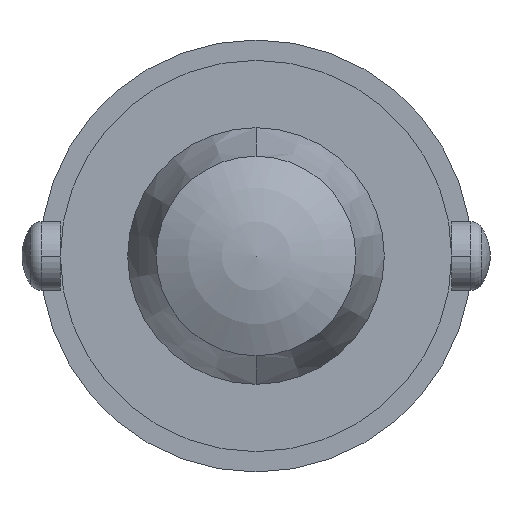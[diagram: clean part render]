
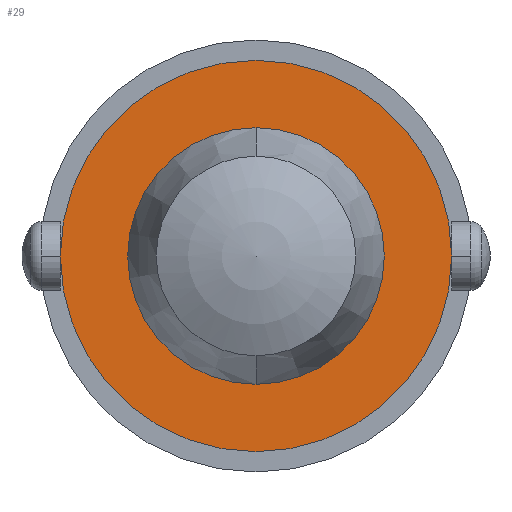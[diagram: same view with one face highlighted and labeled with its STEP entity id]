
A CAD part, front view. The second image highlights one B-rep face of the part: STEP entity #29.
In plain terms, the highlighted planar face has unit normal (0, -1, 0).
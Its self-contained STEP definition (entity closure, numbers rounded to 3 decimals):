
#29 = ADVANCED_FACE ( 'NONE', ( #313, #328 ), #244, .T. ) ;
#131 = CIRCLE ( 'NONE', #629, 3. ) ;
#132 = CIRCLE ( 'NONE', #631, 3. ) ;
#139 = CIRCLE ( 'NONE', #642, 4.575 ) ;
#146 = AXIS2_PLACEMENT_3D ( 'NONE', #254, #236, #221 ) ;
#197 = CIRCLE ( 'NONE', #660, 4.575 ) ;
#199 = EDGE_CURVE ( 'NONE', #619, #411, #197, .T. ) ;
#221 = DIRECTION ( 'NONE',  ( 0., 0., -1. ) ) ;
#236 = DIRECTION ( 'NONE',  ( 0., -1., 0. ) ) ;
#244 = PLANE ( 'NONE',  #146 ) ;
#254 = CARTESIAN_POINT ( 'NONE',  ( 0., -19.9, 0. ) ) ;
#259 = EDGE_CURVE ( 'NONE', #411, #619, #139, .T. ) ;
#261 = CARTESIAN_POINT ( 'NONE',  ( 0., -19.9, 4.575 ) ) ;
#267 = CARTESIAN_POINT ( 'NONE',  ( 0., -19.9, -3. ) ) ;
#280 = EDGE_CURVE ( 'NONE', #503, #550, #132, .T. ) ;
#281 = EDGE_CURVE ( 'NONE', #550, #503, #131, .T. ) ;
#313 = FACE_BOUND ( 'NONE', #391, .T. ) ;
#328 = FACE_OUTER_BOUND ( 'NONE', #355, .T. ) ;
#337 = CARTESIAN_POINT ( 'NONE',  ( 0., -19.9, 3. ) ) ;
#355 = EDGE_LOOP ( 'NONE', ( #470, #404 ) ) ;
#391 = EDGE_LOOP ( 'NONE', ( #410, #445 ) ) ;
#404 = ORIENTED_EDGE ( 'NONE', *, *, #259, .T. ) ;
#410 = ORIENTED_EDGE ( 'NONE', *, *, #280, .F. ) ;
#411 = VERTEX_POINT ( 'NONE', #416 ) ;
#416 = CARTESIAN_POINT ( 'NONE',  ( 0., -19.9, -4.575 ) ) ;
#445 = ORIENTED_EDGE ( 'NONE', *, *, #281, .F. ) ;
#455 = DIRECTION ( 'NONE',  ( 0., -1., 0. ) ) ;
#470 = ORIENTED_EDGE ( 'NONE', *, *, #199, .T. ) ;
#473 = DIRECTION ( 'NONE',  ( 0., 0., -1. ) ) ;
#475 = DIRECTION ( 'NONE',  ( 0., -1., 0. ) ) ;
#481 = DIRECTION ( 'NONE',  ( 0., 0., -1. ) ) ;
#485 = CARTESIAN_POINT ( 'NONE',  ( 0., -19.9, 0. ) ) ;
#503 = VERTEX_POINT ( 'NONE', #337 ) ;
#515 = CARTESIAN_POINT ( 'NONE',  ( 0., -19.9, 0. ) ) ;
#537 = DIRECTION ( 'NONE',  ( 0., 0., -1. ) ) ;
#550 = VERTEX_POINT ( 'NONE', #267 ) ;
#557 = CARTESIAN_POINT ( 'NONE',  ( 0., -19.9, 0. ) ) ;
#559 = DIRECTION ( 'NONE',  ( 0., -1., 0. ) ) ;
#619 = VERTEX_POINT ( 'NONE', #261 ) ;
#629 = AXIS2_PLACEMENT_3D ( 'NONE', #485, #455, #473 ) ;
#631 = AXIS2_PLACEMENT_3D ( 'NONE', #515, #475, #481 ) ;
#636 = DIRECTION ( 'NONE',  ( 0., -1., 0. ) ) ;
#642 = AXIS2_PLACEMENT_3D ( 'NONE', #557, #559, #537 ) ;
#647 = DIRECTION ( 'NONE',  ( 0., 0., -1. ) ) ;
#652 = CARTESIAN_POINT ( 'NONE',  ( 0., -19.9, 0. ) ) ;
#660 = AXIS2_PLACEMENT_3D ( 'NONE', #652, #636, #647 ) ;
